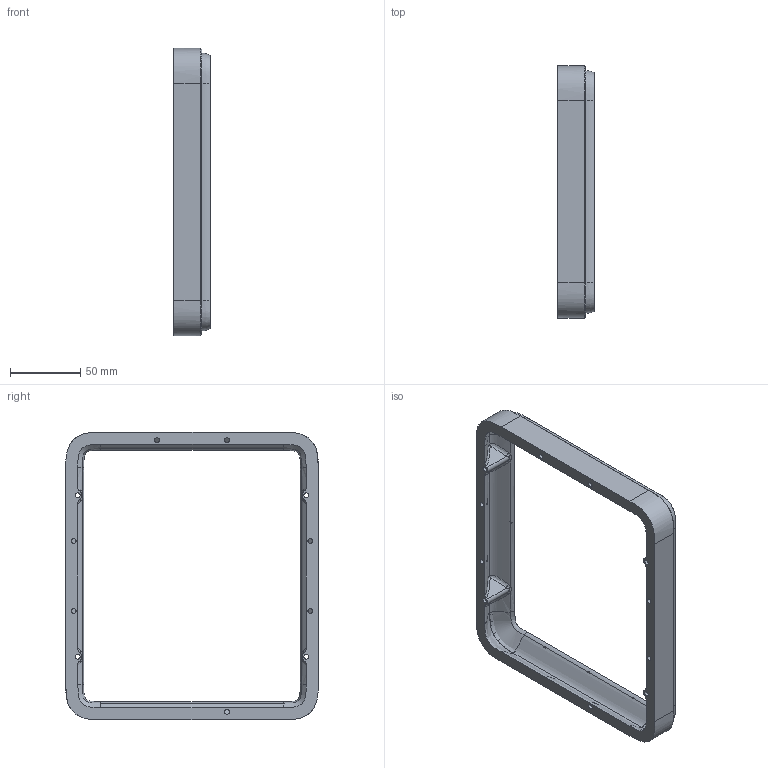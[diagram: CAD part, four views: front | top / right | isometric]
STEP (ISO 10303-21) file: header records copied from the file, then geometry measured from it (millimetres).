
FILE_DESCRIPTION(/* description */ (''),/* implementation_level */ '2;1');
FILE_NAME(/* name */ 'BACK EXTERNAL PROFILE.step',/* time_stamp */ '2024-02-28T17:32:18Z',/* author */ (''),/* organization */ (''),/* preprocessor_version */ 'ST-DEVELOPER v20',/* originating_system */ 'Autodesk Translation Framework v12.20.1.177',/* authorisation */ '');
FILE_SCHEMA (('AUTOMOTIVE_DESIGN { 1 0 10303 214 3 1 1 }'));
Length unit declared in the file: millimetre
Products named in the file (1): BACK EXTERNAL PROFILE
Bounding box: 26.2 x 180 x 205 mm (x, y, z)
Volume: 102032.4 mm3; surface area: 59167.9 mm2
Topology: 1 solids, 1 shells, 274 faces, 782 edges, 503 vertices
Faces by surface type: cylinder 127, bspline 116, plane 31
Full cylindrical faces by diameter (mm): 2.529 x24, 3.086 x8, 3.5 x11
Entity records: 24256 total; most frequent: CARTESIAN_POINT 18279, ORIENTED_EDGE 1572, EDGE_CURVE 786, DIRECTION 693, VERTEX_POINT 503, B_SPLINE_CURVE_WITH_KNOTS 458, EDGE_LOOP 319, FACE_OUTER_BOUND 274
